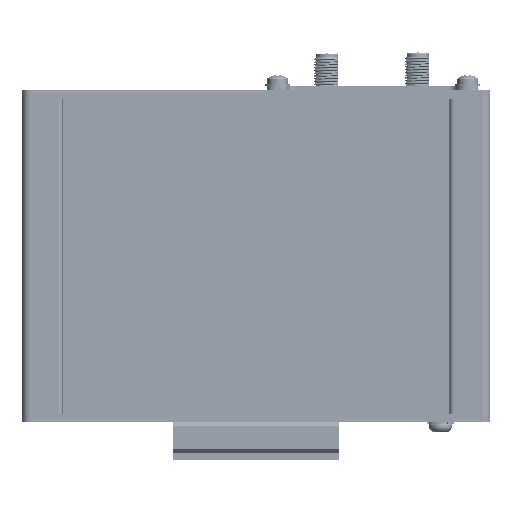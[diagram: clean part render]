
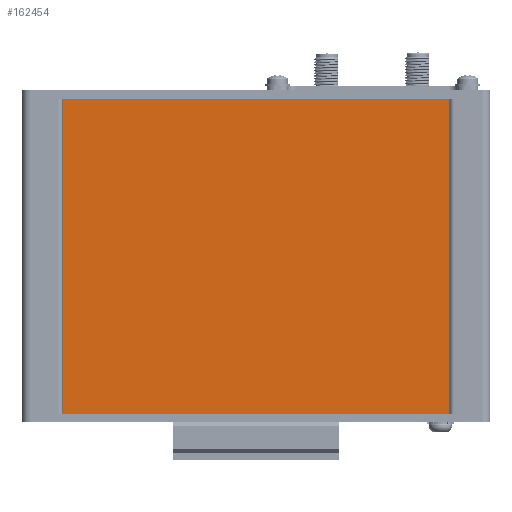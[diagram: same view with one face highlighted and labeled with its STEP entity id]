
A CAD part, front view. The second image highlights one B-rep face of the part: STEP entity #162454.
In plain terms, the highlighted planar face has unit normal (0, -1, 0).
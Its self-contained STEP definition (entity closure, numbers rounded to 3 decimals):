
#8218 = LINE ( 'NONE', #231938, #196593 ) ;
#17099 = CARTESIAN_POINT ( 'NONE',  ( -46.8, -20., 0. ) ) ;
#21452 = VECTOR ( 'NONE', #131641, 1000. ) ;
#29533 = LINE ( 'NONE', #79818, #21452 ) ;
#34769 = VERTEX_POINT ( 'NONE', #284866 ) ;
#38484 = DIRECTION ( 'NONE',  ( 0., 0., 1. ) ) ;
#42979 = ORIENTED_EDGE ( 'NONE', *, *, #111085, .F. ) ;
#45035 = ORIENTED_EDGE ( 'NONE', *, *, #196929, .T. ) ;
#47098 = CARTESIAN_POINT ( 'NONE',  ( 46.8, -20., 0. ) ) ;
#47878 = VECTOR ( 'NONE', #70494, 1000. ) ;
#62826 = PLANE ( 'NONE',  #95243 ) ;
#70494 = DIRECTION ( 'NONE',  ( 1., 0., 0. ) ) ;
#79818 = CARTESIAN_POINT ( 'NONE',  ( -46.8, -20., 76.3 ) ) ;
#80601 = VECTOR ( 'NONE', #116003, 1000. ) ;
#85789 = EDGE_LOOP ( 'NONE', ( #181880, #117933, #42979, #45035 ) ) ;
#91896 = FACE_OUTER_BOUND ( 'NONE', #85789, .T. ) ;
#95243 = AXIS2_PLACEMENT_3D ( 'NONE', #161687, #260586, #38484 ) ;
#111085 = EDGE_CURVE ( 'NONE', #34769, #179132, #294164, .T. ) ;
#116003 = DIRECTION ( 'NONE',  ( 1., 0., 0. ) ) ;
#117933 = ORIENTED_EDGE ( 'NONE', *, *, #130368, .F. ) ;
#122628 = VERTEX_POINT ( 'NONE', #47098 ) ;
#130368 = EDGE_CURVE ( 'NONE', #179132, #122628, #8218, .T. ) ;
#131641 = DIRECTION ( 'NONE',  ( 0., 0., -1. ) ) ;
#161687 = CARTESIAN_POINT ( 'NONE',  ( -46.8, -20., 76.3 ) ) ;
#162454 = ADVANCED_FACE ( 'NONE', ( #91896 ), #62826, .F. ) ;
#179132 = VERTEX_POINT ( 'NONE', #310409 ) ;
#181880 = ORIENTED_EDGE ( 'NONE', *, *, #306936, .T. ) ;
#196593 = VECTOR ( 'NONE', #204395, 1000. ) ;
#196929 = EDGE_CURVE ( 'NONE', #34769, #315585, #29533, .T. ) ;
#204395 = DIRECTION ( 'NONE',  ( 0., 0., -1. ) ) ;
#214058 = CARTESIAN_POINT ( 'NONE',  ( -46.8, -20., 0. ) ) ;
#231938 = CARTESIAN_POINT ( 'NONE',  ( 46.8, -20., 76.3 ) ) ;
#239219 = LINE ( 'NONE', #17099, #80601 ) ;
#260586 = DIRECTION ( 'NONE',  ( 0., 1., 0. ) ) ;
#284866 = CARTESIAN_POINT ( 'NONE',  ( -46.8, -20., 76.3 ) ) ;
#294164 = LINE ( 'NONE', #320082, #47878 ) ;
#306936 = EDGE_CURVE ( 'NONE', #315585, #122628, #239219, .T. ) ;
#310409 = CARTESIAN_POINT ( 'NONE',  ( 46.8, -20., 76.3 ) ) ;
#315585 = VERTEX_POINT ( 'NONE', #214058 ) ;
#320082 = CARTESIAN_POINT ( 'NONE',  ( -46.8, -20., 76.3 ) ) ;
